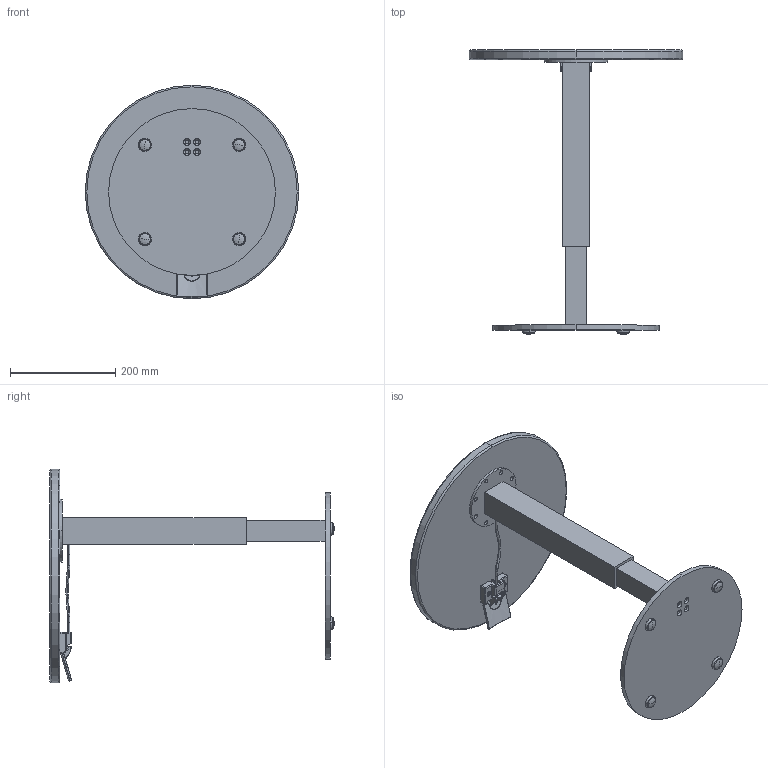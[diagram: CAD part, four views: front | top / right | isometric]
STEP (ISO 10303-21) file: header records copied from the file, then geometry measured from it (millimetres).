
FILE_DESCRIPTION (( 'STEP AP203' ), '1' );
FILE_NAME ('16 Round Long Mount-HT.ADJ-Lowest Position.STEP', '2024-10-30T12:39:28', ( '' ), ( '' ), 'SwSTEP 2.0', 'SolidWorks 2021', '' );
FILE_SCHEMA (( 'CONFIG_CONTROL_DESIGN' ));
Length unit declared in the file: inch
Products named in the file (13): ALG-SS; 12.5 Rnd. C-Base Plate Assy.; TT-16R-EB; 16 Round Long Mount-HT.ADJ-Lowest Position; Short Paddle Shift Cable; TT-16R; TT-16R-Lam; Paddle; Paddle Control; Paddle Control Base; 12.5 Round, Long Mount Plate; TT-16R-Core; Proto laptop STAND
Assembly tree (15 placements, depth 3):
  16 Round Long Mount-HT.ADJ-Lowest Position
    Proto laptop STAND
    12.5 Rnd. C-Base Plate Assy.
      12.5 Round, Long Mount Plate
      ALG-SS  x4
    Paddle Control
      Paddle Control Base
      Paddle
    Short Paddle Shift Cable
    TT-16R
      TT-16R-Core
      TT-16R-Lam
      TT-16R-EB
Bounding box: 406.4 x 541.58 x 406.4 mm (x, y, z)
Volume: 4385974.3 mm3; surface area: 935869.1 mm2
Topology: 18 solids, 18 shells, 494 faces, 1130 edges, 661 vertices
Faces by surface type: cylinder 171, plane 139, cone 128, torus 22, bspline 18, sphere 16
Entity records: 12462 total; most frequent: CARTESIAN_POINT 2997, DIRECTION 1749, ORIENTED_EDGE 1610, EDGE_CURVE 805, AXIS2_PLACEMENT_3D 643, VERTEX_POINT 496, LINE 463, VECTOR 463
